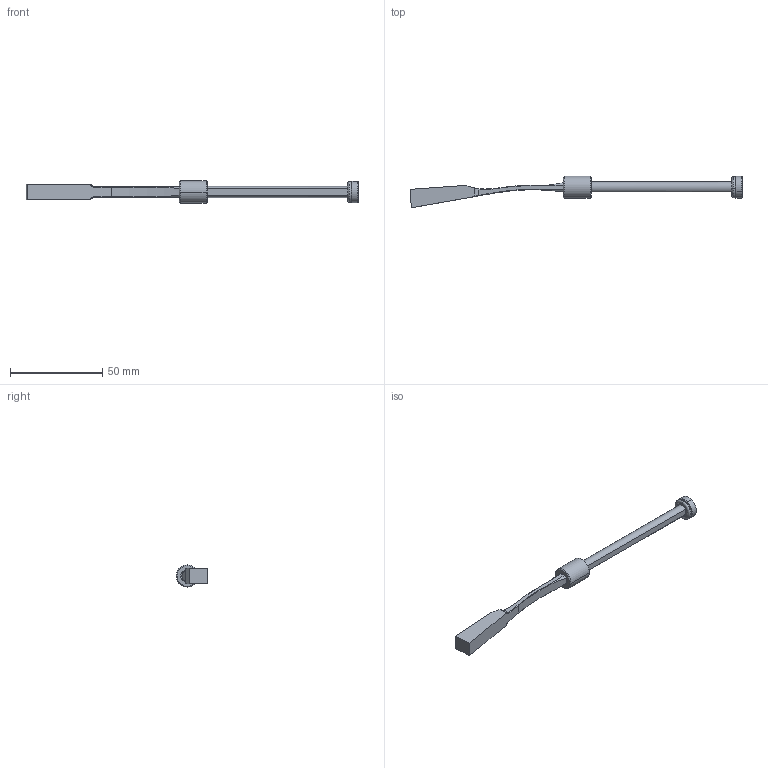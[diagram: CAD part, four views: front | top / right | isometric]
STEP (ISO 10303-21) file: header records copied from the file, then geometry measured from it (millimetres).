
FILE_DESCRIPTION (( 'STEP AP214' ), '1' );
FILE_NAME ('pw060830_ejection.STEP', '2021-07-15T09:11:06', ( '' ), ( '' ), 'SwSTEP 2.0', 'SolidWorks 2019', '' );
FILE_SCHEMA (( 'AUTOMOTIVE_DESIGN' ));
Length unit declared in the file: millimetre
Products named in the file (6): pw060830_ejection; 1DIN7991416_DIN 7991 - M4 x 16 --- 16C; 9PW060830; 9FP1205M4; 9CS061215; 3JT7.5X2X11.5
Assembly tree (5 placements, depth 2):
  pw060830_ejection
    9PW060830
    9FP1205M4
    3JT7.5X2X11.5
    1DIN7991416_DIN 7991 - M4 x 16 --- 16C
    9CS061215
Bounding box: 179.5 x 17.05 x 12 mm (x, y, z)
Volume: 7108.5 mm3; surface area: 6036.5 mm2
Topology: 5 solids, 5 shells, 466 faces, 1250 edges, 814 vertices
Faces by surface type: bspline 255, plane 100, cylinder 69, cone 28, torus 14
Entity records: 26985 total; most frequent: CARTESIAN_POINT 17412, ORIENTED_EDGE 2492, EDGE_CURVE 1246, DIRECTION 935, B_SPLINE_CURVE_WITH_KNOTS 871, VERTEX_POINT 814, EDGE_LOOP 496, ADVANCED_FACE 466
